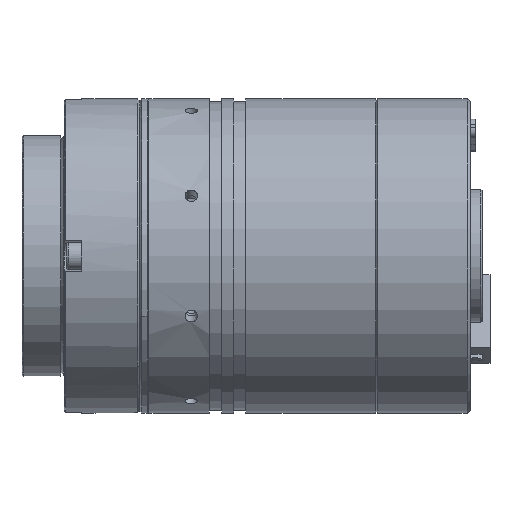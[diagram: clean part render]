
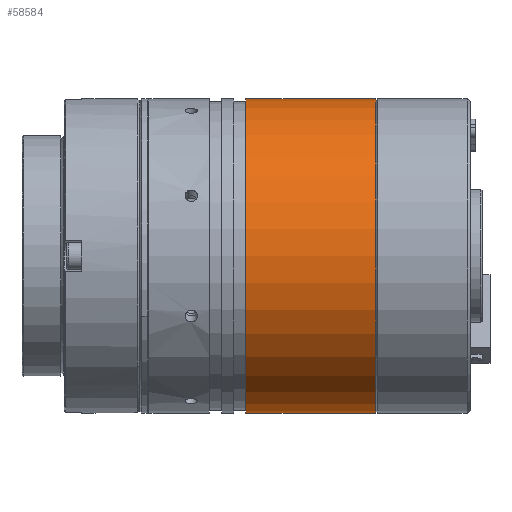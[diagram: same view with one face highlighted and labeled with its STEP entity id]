
A CAD part, front view. The second image highlights one B-rep face of the part: STEP entity #58584.
In plain terms, the highlighted cylindrical face has radius 26 mm (diameter 52 mm), a full revolution.
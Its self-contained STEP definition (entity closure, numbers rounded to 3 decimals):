
#58545=CARTESIAN_POINT('',(56.5,0.023,26.));
#58546=VERTEX_POINT('',#58545);
#58547=CARTESIAN_POINT('',(56.5,0.,0.));
#58548=DIRECTION('',(0.,0.001,1.));
#58549=DIRECTION('',(1.,0.,0.));
#58550=AXIS2_PLACEMENT_3D('',#58547,#58549,#58548);
#58551=CIRCLE('',#58550,26.);
#58552=EDGE_CURVE('',#58546,#58546,#58551,.T.);
#58560=CARTESIAN_POINT('',(56.5,0.,0.));
#58561=DIRECTION('',(0.,0.001,1.));
#58562=DIRECTION('',(-1.,0.,0.));
#58563=AXIS2_PLACEMENT_3D('',#58560,#58562,#58561);
#58564=CYLINDRICAL_SURFACE('',#58563,26.);
#58565=CARTESIAN_POINT('',(35.,0.023,26.));
#58566=VERTEX_POINT('',#58565);
#58567=CARTESIAN_POINT('',(35.,0.,0.));
#58568=DIRECTION('',(0.,0.001,1.));
#58569=DIRECTION('',(1.,0.,0.));
#58570=AXIS2_PLACEMENT_3D('',#58567,#58569,#58568);
#58571=CIRCLE('',#58570,26.);
#58572=EDGE_CURVE('',#58566,#58566,#58571,.T.);
#58573=ORIENTED_EDGE('',*,*,#58572,.T.);
#58574=CARTESIAN_POINT('',(35.,0.023,26.));
#58575=DIRECTION('',(1.,0.,0.));
#58576=VECTOR('',#58575,21.5);
#58577=LINE('',#58574,#58576);
#58578=EDGE_CURVE('',#58566,#58546,#58577,.T.);
#58579=ORIENTED_EDGE('',*,*,#58578,.T.);
#58580=ORIENTED_EDGE('',*,*,#58552,.F.);
#58581=ORIENTED_EDGE('',*,*,#58578,.F.);
#58582=EDGE_LOOP('',(#58573,#58579,#58580,#58581));
#58583=FACE_OUTER_BOUND('',#58582,.T.);
#58584=ADVANCED_FACE('',(#58583),#58564,.T.);
